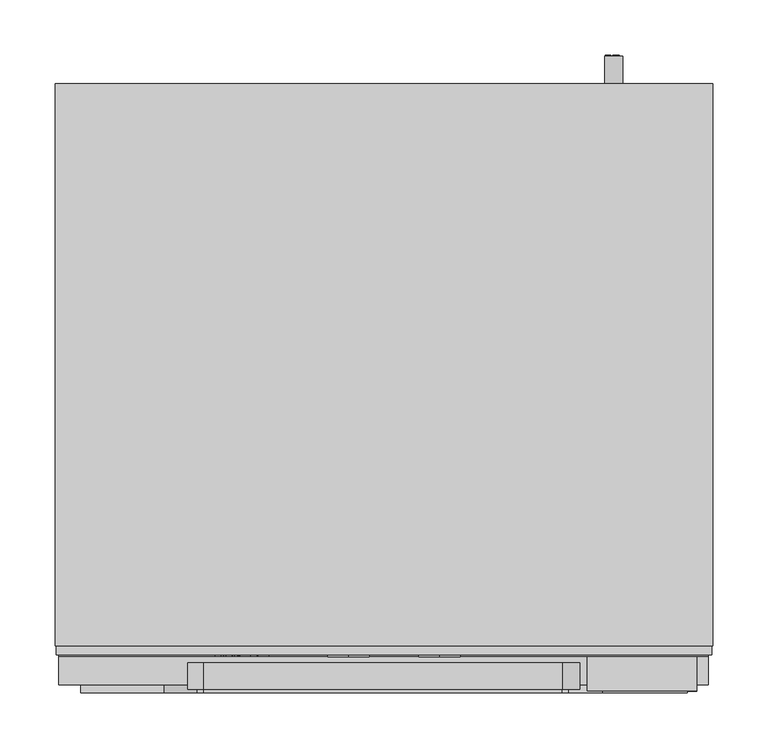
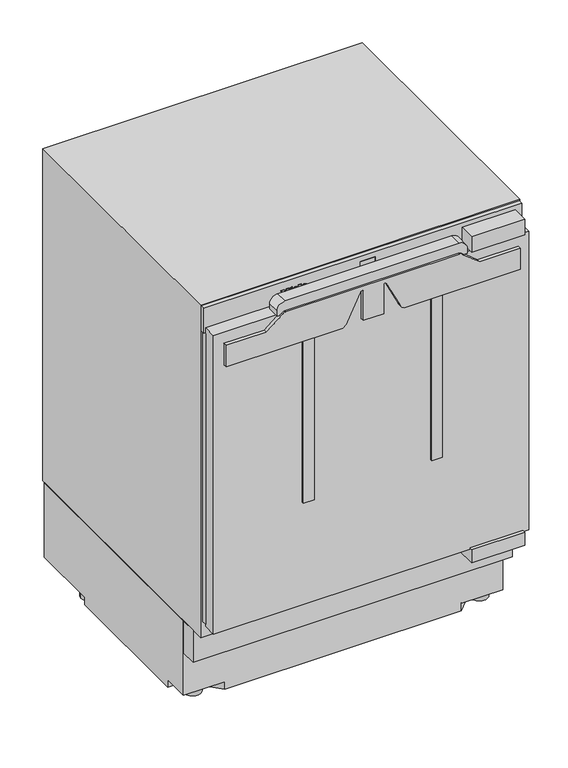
"""IFC4 building model written with IfcOpenShell, lengths in millimetres: proxy geometry, 10799700_USA_K31222Ui : 36312220_USA_10799700_K31222Ui."""

from ifc_helpers import new_model, si_unit, point, frame, frame_2d, origin, origin_with_axes, place, context, project, spatial, polyline, circle_curve, ellipse_curve, trimmed, segment, composite_curve, outline, extrude, faceted_brep, source, transform, mapped, element, save
from ifc_brep_helpers import plane_surface, cylinder_surface, revolved_surface, extruded_surface, advanced_brep


def specialty_equipment_11cac2a6(model_context):
    return source(origin(), model_context, "Body", "SolidModel", [
        advanced_brep(
        [(-110.007984, 33.1191139, 797.0960122), (-110.007984, 33.1191139, 797.9040122), (-104.655984, 33.1191139, 797.9040122), (-113.967984, 33.1191139, 797.9040122), (-111.767984, 33.1191139, 795.2000122), (-104.791984, 33.1191139, 797.0960122), (-107.207984, 33.1191139, 797.0960122), (-109.111984, 33.1191139, 796.2000122), (-110.007984, 33.1191139, 798.9280122), (-110.007984, 33.1191139, 799.8000122), (-108.639984, 33.1191139, 799.8000122), (-108.639984, 33.1191139, 798.9280122), (-110.007984, 34.1191139, 797.0960122), (-109.111984, 34.1191139, 796.2000122), (-107.207984, 34.1191139, 797.0960122), (-104.791984, 34.1191139, 797.0960122), (-111.767984, 34.1191139, 795.2000122), (-113.967984, 34.1191139, 797.9040122), (-104.655984, 34.1191139, 797.9040122), (-110.007984, 34.1191139, 797.9040122), (-110.007984, 34.1191139, 798.9280122), (-108.639984, 34.1191139, 798.9280122), (-108.639984, 34.1191139, 799.8000122), (-110.007984, 34.1191139, 799.8000122)],
        [
            (0, 1),
            (1, 2),
            (2, 3, ellipse_curve(frame((-109.311984, 33.1191139, 797.9040122), z_axis=(0.0, -1.0, 0.0), x_axis=(-1.0, 0.0, 0.0)), 4.656, 3.848)),
            (3, 4, circle_curve(frame((-110.8719404, 33.1191139, 798.1760122), z_axis=(0.0, -1.0, 0.0), x_axis=(0.0, 0.0, -1.0)), 3.1079688)),
            (4, 5, circle_curve(frame((-109.4051904, 33.1191139, 800.2880122), z_axis=(0.0, -1.0, 0.0), x_axis=(0.0, 0.0, -1.0)), 5.6098607)),
            (5, 6),
            (6, 7, circle_curve(frame((-108.7209252, 33.1191139, 797.8400122), z_axis=(0.0, 1.0, 0.0), x_axis=(0.0, 0.0, -1.0)), 1.6859795)),
            (7, 0, circle_curve(frame((-109.111984, 33.1191139, 797.0960122), z_axis=(0.0, 1.0, 0.0), x_axis=(0.0, 0.0, -1.0)), 0.896)),
            (8, 9),
            (9, 10, circle_curve(frame((-109.323984, 33.1191139, 799.8000122), z_axis=(0.0, 1.0, 0.0), x_axis=(0.0, 0.0, -1.0)), 0.684)),
            (10, 11),
            (11, 8),
            (12, 13, circle_curve(frame((-109.111984, 34.1191139, 797.0960122), z_axis=(0.0, -1.0, 0.0), x_axis=(0.0, 0.0, -1.0)), 0.896)),
            (13, 14, circle_curve(frame((-108.7209252, 34.1191139, 797.8400122), z_axis=(0.0, -1.0, 0.0), x_axis=(0.0, 0.0, -1.0)), 1.6859795)),
            (14, 15),
            (15, 16, circle_curve(frame((-109.4051904, 34.1191139, 800.2880122), z_axis=(0.0, 1.0, 0.0), x_axis=(0.0, 0.0, -1.0)), 5.6098607)),
            (16, 17, circle_curve(frame((-110.8719404, 34.1191139, 798.1760122), z_axis=(0.0, 1.0, 0.0), x_axis=(0.0, 0.0, -1.0)), 3.1079688)),
            (17, 18, ellipse_curve(frame((-109.311984, 34.1191139, 797.9040122), z_axis=(0.0, 1.0, 0.0), x_axis=(-1.0, 0.0, 0.0)), 4.656, 3.848)),
            (18, 19),
            (19, 12),
            (20, 21),
            (21, 22),
            (22, 23, circle_curve(frame((-109.323984, 34.1191139, 799.8000122), z_axis=(0.0, -1.0, 0.0), x_axis=(0.0, 0.0, -1.0)), 0.684)),
            (23, 20),
            (0, 12),
            (19, 1),
            (18, 2),
            (5, 15),
            (14, 6),
            (17, 3),
            (13, 7),
            (16, 4),
            (8, 20),
            (23, 9),
            (22, 10),
            (21, 11),
        ],
        [
            plane_surface(frame((-110.007984, 33.1191139, 797.9040122), z_axis=(0.0, -1.0, 0.0), x_axis=(0.0, 0.0, 1.0))),
            plane_surface(frame((-110.007984, 34.1191139, 797.9040122), z_axis=(0.0, 1.0, 0.0), x_axis=(0.0, 0.0, -1.0))),
            plane_surface(frame((-110.007984, 33.1191139, 797.0960122), z_axis=(1.0, 0.0, 0.0), x_axis=(0.0, 1.0, 0.0))),
            plane_surface(frame((-110.007984, 33.1191139, 797.9040122), z_axis=(0.0, 0.0, -1.0), x_axis=(0.0, 1.0, 0.0))),
            plane_surface(frame((-104.791984, 33.1191139, 797.0960122), z_axis=(0.0, 0.0, 1.0), x_axis=(0.0, 1.0, 0.0))),
            extruded_surface(trimmed(ellipse_curve(frame((-109.311984, 35.1191139, 797.9040122), z_axis=(0.0, -1.0, 0.0), x_axis=(-1.0, 0.0, 0.0)), 4.656, 3.848), [point((-104.655984, 35.1191139, 797.9040122))], [point((-113.967984, 35.1191139, 797.9040122))], True, "CARTESIAN"), (0.0, -1.0, 0.0), 1.0),
            revolved_surface(polyline([(-108.7209252, 34.1191139, 796.1540327), (-108.7209252, 33.1191139, 796.1540327)]), (-108.7209252, 34.1191139, 797.8400122), (0.0, 1.0, 0.0)),
            revolved_surface(polyline([(-109.111984, 34.1191139, 796.2000122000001), (-109.111984, 33.1191139, 796.2000122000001)]), (-109.111984, 34.1191139, 797.0960122), (0.0, 1.0, 0.0)),
            cylinder_surface(frame((-110.8719404, 34.1191139, 798.1760122), z_axis=(0.0, -1.0, 0.0), x_axis=(0.0, 0.0, -1.0)), 3.1079688),
            cylinder_surface(frame((-109.4051904, 34.1191139, 800.2880122), z_axis=(0.0, -1.0, 0.0), x_axis=(0.0, 0.0, -1.0)), 5.6098607),
            plane_surface(frame((-110.007984, 33.1191139, 798.9280122), z_axis=(1.0, 0.0, 0.0), x_axis=(0.0, 1.0, 0.0))),
            revolved_surface(polyline([(-109.323984, 34.1191139, 799.1160122), (-109.323984, 33.1191139, 799.1160122)]), (-109.323984, 34.1191139, 799.8000122), (0.0, 1.0, 0.0)),
            plane_surface(frame((-108.639984, 33.1191139, 799.8000122), z_axis=(-1.0, 0.0, 0.0), x_axis=(0.0, 1.0, 0.0))),
            plane_surface(frame((-108.639984, 33.1191139, 798.9280122), z_axis=(0.0, 0.0, 1.0), x_axis=(0.0, 1.0, 0.0))),
        ],
        [
            (0, [[1, 2, 3, 4, 5, 6, 7, 8], [9, 10, 11, 12]]),
            (1, [[13, 14, 15, 16, 17, 18, 19, 20], [21, 22, 23, 24]]),
            (2, [[-1, 25, -20, 26]]),
            (3, [[-2, -26, -19, 27]]),
            (4, [[-6, 28, -15, 29]]),
            (5, [[-3, -27, -18, 30]]),
            (6, [[-7, -29, -14, 31]]),
            (7, [[-8, -31, -13, -25]]),
            (8, [[-4, -30, -17, 32]]),
            (9, [[-5, -32, -16, -28]]),
            (10, [[-9, 33, -24, 34]]),
            (11, [[-10, -34, -23, 35]]),
            (12, [[-11, -35, -22, 36]]),
            (13, [[-12, -36, -21, -33]]),
        ],
    ),
        advanced_brep(
        [(-126.703984, 33.1191139, 797.0960122), (-126.703984, 33.1191139, 797.9040122), (-121.351984, 33.1191139, 797.9040122), (-130.663984, 33.1191139, 797.9040122), (-128.463984, 33.1191139, 795.2000122), (-121.487984, 33.1191139, 797.0960122), (-123.903984, 33.1191139, 797.0960122), (-125.807984, 33.1191139, 796.2000122), (-126.703984, 33.1191139, 798.9280122), (-126.703984, 33.1191139, 799.8000122), (-125.335984, 33.1191139, 799.8000122), (-125.335984, 33.1191139, 798.9280122), (-126.703984, 34.1191139, 797.0960122), (-125.807984, 34.1191139, 796.2000122), (-123.903984, 34.1191139, 797.0960122), (-121.487984, 34.1191139, 797.0960122), (-128.463984, 34.1191139, 795.2000122), (-130.663984, 34.1191139, 797.9040122), (-121.351984, 34.1191139, 797.9040122), (-126.703984, 34.1191139, 797.9040122), (-126.703984, 34.1191139, 798.9280122), (-125.335984, 34.1191139, 798.9280122), (-125.335984, 34.1191139, 799.8000122), (-126.703984, 34.1191139, 799.8000122)],
        [
            (0, 1),
            (1, 2),
            (2, 3, ellipse_curve(frame((-126.007984, 33.1191139, 797.9040122), z_axis=(0.0, -1.0, 0.0), x_axis=(-1.0, 0.0, 0.0)), 4.656, 3.848)),
            (3, 4, circle_curve(frame((-127.5679404, 33.1191139, 798.1760122), z_axis=(0.0, -1.0, 0.0), x_axis=(0.0, 0.0, -1.0)), 3.1079688)),
            (4, 5, circle_curve(frame((-126.1011904, 33.1191139, 800.2880122), z_axis=(0.0, -1.0, 0.0), x_axis=(0.0, 0.0, -1.0)), 5.6098607)),
            (5, 6),
            (6, 7, circle_curve(frame((-125.4169252, 33.1191139, 797.8400122), z_axis=(0.0, 1.0, 0.0), x_axis=(0.0, 0.0, -1.0)), 1.6859795)),
            (7, 0, circle_curve(frame((-125.807984, 33.1191139, 797.0960122), z_axis=(0.0, 1.0, 0.0), x_axis=(0.0, 0.0, -1.0)), 0.896)),
            (8, 9),
            (9, 10, circle_curve(frame((-126.019984, 33.1191139, 799.8000122), z_axis=(0.0, 1.0, 0.0), x_axis=(0.0, 0.0, -1.0)), 0.684)),
            (10, 11),
            (11, 8),
            (12, 13, circle_curve(frame((-125.807984, 34.1191139, 797.0960122), z_axis=(0.0, -1.0, 0.0), x_axis=(0.0, 0.0, -1.0)), 0.896)),
            (13, 14, circle_curve(frame((-125.4169252, 34.1191139, 797.8400122), z_axis=(0.0, -1.0, 0.0), x_axis=(0.0, 0.0, -1.0)), 1.6859795)),
            (14, 15),
            (15, 16, circle_curve(frame((-126.1011904, 34.1191139, 800.2880122), z_axis=(0.0, 1.0, 0.0), x_axis=(0.0, 0.0, -1.0)), 5.6098607)),
            (16, 17, circle_curve(frame((-127.5679404, 34.1191139, 798.1760122), z_axis=(0.0, 1.0, 0.0), x_axis=(0.0, 0.0, -1.0)), 3.1079688)),
            (17, 18, ellipse_curve(frame((-126.007984, 34.1191139, 797.9040122), z_axis=(0.0, 1.0, 0.0), x_axis=(-1.0, 0.0, 0.0)), 4.656, 3.848)),
            (18, 19),
            (19, 12),
            (20, 21),
            (21, 22),
            (22, 23, circle_curve(frame((-126.019984, 34.1191139, 799.8000122), z_axis=(0.0, -1.0, 0.0), x_axis=(0.0, 0.0, -1.0)), 0.684)),
            (23, 20),
            (0, 12),
            (19, 1),
            (18, 2),
            (5, 15),
            (14, 6),
            (17, 3),
            (13, 7),
            (16, 4),
            (8, 20),
            (23, 9),
            (22, 10),
            (21, 11),
        ],
        [
            plane_surface(frame((-126.703984, 33.1191139, 797.9040122), z_axis=(0.0, -1.0, 0.0), x_axis=(0.0, 0.0, 1.0))),
            plane_surface(frame((-126.703984, 34.1191139, 797.9040122), z_axis=(0.0, 1.0, 0.0), x_axis=(0.0, 0.0, -1.0))),
            plane_surface(frame((-126.703984, 33.1191139, 797.0960122), z_axis=(1.0, 0.0, 0.0), x_axis=(0.0, 1.0, 0.0))),
            plane_surface(frame((-126.703984, 33.1191139, 797.9040122), z_axis=(0.0, 0.0, -1.0), x_axis=(0.0, 1.0, 0.0))),
            plane_surface(frame((-121.487984, 33.1191139, 797.0960122), z_axis=(0.0, 0.0, 1.0), x_axis=(0.0, 1.0, 0.0))),
            extruded_surface(trimmed(ellipse_curve(frame((-126.007984, 35.1191139, 797.9040122), z_axis=(0.0, -1.0, 0.0), x_axis=(-1.0, 0.0, 0.0)), 4.656, 3.848), [point((-121.351984, 35.1191139, 797.9040122))], [point((-130.663984, 35.1191139, 797.9040122))], True, "CARTESIAN"), (0.0, -1.0, 0.0), 1.0),
            revolved_surface(polyline([(-125.4169252, 34.1191139, 796.1540327), (-125.4169252, 33.1191139, 796.1540327)]), (-125.4169252, 34.1191139, 797.8400122), (0.0, 1.0, 0.0)),
            revolved_surface(polyline([(-125.807984, 34.1191139, 796.2000122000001), (-125.807984, 33.1191139, 796.2000122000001)]), (-125.807984, 34.1191139, 797.0960122), (0.0, 1.0, 0.0)),
            cylinder_surface(frame((-127.5679404, 34.1191139, 798.1760122), z_axis=(0.0, -1.0, 0.0), x_axis=(0.0, 0.0, -1.0)), 3.1079688),
            cylinder_surface(frame((-126.1011904, 34.1191139, 800.2880122), z_axis=(0.0, -1.0, 0.0), x_axis=(0.0, 0.0, -1.0)), 5.6098607),
            plane_surface(frame((-126.703984, 33.1191139, 798.9280122), z_axis=(1.0, 0.0, 0.0), x_axis=(0.0, 1.0, 0.0))),
            revolved_surface(polyline([(-126.019984, 34.1191139, 799.1160122), (-126.019984, 33.1191139, 799.1160122)]), (-126.019984, 34.1191139, 799.8000122), (0.0, 1.0, 0.0)),
            plane_surface(frame((-125.335984, 33.1191139, 799.8000122), z_axis=(-1.0, 0.0, 0.0), x_axis=(0.0, 1.0, 0.0))),
            plane_surface(frame((-125.335984, 33.1191139, 798.9280122), z_axis=(0.0, 0.0, 1.0), x_axis=(0.0, 1.0, 0.0))),
        ],
        [
            (0, [[1, 2, 3, 4, 5, 6, 7, 8], [9, 10, 11, 12]]),
            (1, [[13, 14, 15, 16, 17, 18, 19, 20], [21, 22, 23, 24]]),
            (2, [[-1, 25, -20, 26]]),
            (3, [[-2, -26, -19, 27]]),
            (4, [[-6, 28, -15, 29]]),
            (5, [[-3, -27, -18, 30]]),
            (6, [[-7, -29, -14, 31]]),
            (7, [[-8, -31, -13, -25]]),
            (8, [[-4, -30, -17, 32]]),
            (9, [[-5, -32, -16, -28]]),
            (10, [[-9, 33, -24, 34]]),
            (11, [[-10, -34, -23, 35]]),
            (12, [[-11, -35, -22, 36]]),
            (13, [[-12, -36, -21, -33]]),
        ],
    ),
        extrude(outline(polyline([(802.7280122, -135.447984), (801.4320122, -134.839984), (802.6960122, -132.127984), (803.9920122, -132.727984), (802.7280122, -135.447984)])), frame((0.0, 33.1191139, 0.0), z_axis=(0.0, 1.0, 0.0), x_axis=(0.0, 0.0, 1.0)), (0.0, 0.0, 1.0), 1.0),
        extrude(outline(polyline([(801.2560122, -137.423984), (799.8240122, -137.423984), (799.8240122, -136.471984), (796.5440122, -136.471984), (796.5440122, -137.423984), (795.2000122, -137.423984), (795.2000122, -131.111984), (796.5440122, -131.111984), (796.5440122, -132.039984), (801.2560122, -132.039984), (801.2560122, -137.423984)])), frame((0.0, 33.1191139, 0.0), z_axis=(0.0, 1.0, 0.0), x_axis=(0.0, 0.0, 1.0)), (0.0, 0.0, 1.0), 1.0),
        extrude(outline(polyline([(801.8960122, -120.903984), (801.8960122, -119.943984), (796.5440122, -119.943984), (796.5440122, -120.903984), (795.2000122, -120.903984), (795.2000122, -114.415984), (796.5440122, -114.415984), (796.5440122, -115.399984), (803.2000122, -115.399984), (803.2000122, -120.903984), (801.8960122, -120.903984)])), frame((0.0, 33.1191139, 0.0), z_axis=(0.0, 1.0, 0.0), x_axis=(0.0, 0.0, 1.0)), (0.0, 0.0, 1.0), 1.0),
        extrude(outline(polyline([(801.8960122, -153.367984), (801.8960122, -152.399984), (796.5440122, -152.399984), (796.5440122, -153.367984), (795.2000122, -153.367984), (795.2000122, -149.847984), (796.5440122, -149.847984), (796.5440122, -150.807984), (799.947137, -150.807984), (795.2000122, -147.231984), (800.0152345, -143.639984), (796.5440122, -143.639984), (796.5440122, -144.623984), (795.2000122, -144.623984), (795.2000122, -138.239984), (796.5440122, -138.239984), (796.5440122, -139.255984), (801.8960122, -139.255984), (801.8960122, -138.239984), (803.2000122, -138.239984), (803.2000122, -143.111984), (800.2000122, -145.447984), (803.2000122, -147.791984), (803.2000122, -153.367984), (801.8960122, -153.367984)])), frame((0.0, 33.1191139, 0.0), z_axis=(0.0, 1.0, 0.0), x_axis=(0.0, 0.0, 1.0)), (0.0, 0.0, 1.0), 1.0),
        extrude(outline(polyline([(22.8031044, 34.1191139), (-4.8034096, 34.1191139), (-4.8034096, 37.1191139), (22.8031044, 37.1191139), (22.8031044, 34.1191139)])), frame((0.0, 0.0, 780.9425171), z_axis=(0.0, 0.0, 1.0), x_axis=(1.0, 0.0, 0.0)), (0.0, 0.0, 1.0), 27.6065063),
        faceted_brep([(297.5, 34.1191139, 818.3), (-297.5, 34.1191139, 818.3), (-297.5, 34.1191139, 769.0), (297.5, 34.1191139, 769.0), (22.8031044, 34.1191139, 808.5490234), (22.8031044, 34.1191139, 780.9425171), (-4.8034096, 34.1191139, 780.9425171), (-4.8034096, 34.1191139, 808.5490234), (297.5, 42.5878677, 818.3), (297.5, 42.5878677, 769.0), (-297.5, 42.5878677, 769.0), (-297.5, 42.5878677, 818.3), (22.8031044, 37.1191139, 780.9425171), (22.8031044, 37.1191139, 808.5490234), (-4.8034096, 37.1191139, 808.5490234), (-4.8034096, 37.1191139, 780.9425171)], [[[0, 1, 2, 3], [4, 5, 6, 7]], [[8, 9, 10, 11]], [[1, 0, 8, 11]], [[2, 1, 11, 10]], [[3, 2, 10, 9]], [[0, 3, 9, 8]], [[12, 13, 14, 15]], [[13, 12, 5, 4]], [[14, 13, 4, 7]], [[15, 14, 7, 6]], [[12, 15, 6, 5]]]),
        extrude(outline(polyline([(69.276268, 32.6236), (50.5390474, 32.6236), (50.5390474, 34.1191139), (69.276268, 34.1191139), (69.276268, 32.6236)])), frame((0.0, 0.0, 790.757529), z_axis=(0.0, 0.0, 1.0), x_axis=(1.0, 0.0, 0.0)), (0.0, 0.0, 1.0), 7.9893937),
        extrude(outline(polyline([(49.9912624, 32.6236), (31.4976923, 32.6236), (31.4976923, 34.1191139), (49.9912624, 34.1191139), (49.9912624, 32.6236)])), frame((0.0, 0.0, 790.757529), z_axis=(0.0, 0.0, 1.0), x_axis=(1.0, 0.0, 0.0)), (0.0, 0.0, 1.0), 7.9893937),
        extrude(outline(polyline([(-13.2239265, 32.6236), (-31.9611472, 32.6236), (-31.9611472, 34.1191139), (-13.2239265, 34.1191139), (-13.2239265, 32.6236)])), frame((0.0, 0.0, 790.757529), z_axis=(0.0, 0.0, 1.0), x_axis=(1.0, 0.0, 0.0)), (0.0, 0.0, 1.0), 7.9893937),
        extrude(outline(polyline([(-32.5089321, 32.6236), (-51.0025022, 32.6236), (-51.0025022, 34.1191139), (-32.5089321, 34.1191139), (-32.5089321, 32.6236)])), frame((0.0, 0.0, 790.757529), z_axis=(0.0, 0.0, 1.0), x_axis=(1.0, 0.0, 0.0)), (0.0, 0.0, 1.0), 7.9893937),
        extrude(outline(composite_curve([segment(trimmed(circle_curve(frame_2d((268.0, 122.0)), 16.0), [point((252.0, 122.0))], [point((284.0, 122.0))], False, "CARTESIAN"), True, "CONTINUOUS"), segment(trimmed(circle_curve(frame_2d((268.0, 122.0)), 16.0), [point((284.0, 122.0))], [point((252.0, 122.0))], False, "CARTESIAN"), True, "CONTINUOUS")], self_intersect=False)), origin_with_axes(), (0.0, 0.0, 1.0), 15.0),
        extrude(outline(composite_curve([segment(trimmed(circle_curve(frame_2d((278.5, 459.0)), 16.0), [point((262.5, 459.0))], [point((294.5, 459.0))], False, "CARTESIAN"), True, "CONTINUOUS"), segment(trimmed(circle_curve(frame_2d((278.5, 459.0)), 16.0), [point((294.5, 459.0))], [point((262.5, 459.0))], False, "CARTESIAN"), True, "CONTINUOUS")], self_intersect=False)), origin_with_axes(), (0.0, 0.0, 1.0), 15.0),
        extrude(outline(composite_curve([segment(trimmed(circle_curve(frame_2d((-278.5, 437.0)), 16.0), [point((-294.5, 437.0))], [point((-262.5, 437.0))], False, "CARTESIAN"), True, "CONTINUOUS"), segment(trimmed(circle_curve(frame_2d((-278.5, 437.0)), 16.0), [point((-262.5, 437.0))], [point((-294.5, 437.0))], False, "CARTESIAN"), True, "CONTINUOUS")], self_intersect=False)), origin_with_axes(), (0.0, 0.0, 1.0), 15.0),
        extrude(outline(composite_curve([segment(trimmed(circle_curve(frame_2d((-268.0, 122.0)), 16.0), [point((-284.0, 122.0))], [point((-252.0, 122.0))], False, "CARTESIAN"), True, "CONTINUOUS"), segment(trimmed(circle_curve(frame_2d((-268.0, 122.0)), 16.0), [point((-252.0, 122.0))], [point((-284.0, 122.0))], False, "CARTESIAN"), True, "CONTINUOUS")], self_intersect=False)), origin_with_axes(), (0.0, 0.0, 1.0), 15.0),
        extrude(outline(polyline([(298.5, 98.0), (298.5, 67.0), (-298.5, 67.0), (-298.5, 98.0), (298.5, 98.0)])), frame((0.0, 0.0, 99.0), z_axis=(0.0, 0.0, 1.0), x_axis=(1.0, 0.0, 0.0)), (0.0, 0.0, 1.0), 64.0),
        faceted_brep([(298.5, 548.0, 163.0), (298.5, 98.0, 163.0), (298.5, 98.0, 15.0), (298.5, 149.4293485, 15.0), (298.5, 149.4293485, 0.0), (298.5, 418.0, 0.0), (298.5, 418.0, 15.0), (298.5, 548.0, 15.0), (-298.5, 98.0, 163.0), (-298.5, 548.0, 163.0), (-298.5, 548.0, 15.0), (-298.5, 418.0, 15.0), (-298.5, 418.0, 0.0), (-298.5, 149.4293485, 0.0), (-298.5, 149.4293485, 15.0), (-298.5, 98.0, 15.0), (254.5, 548.0, 15.0), (254.5, 548.0, 0.0), (-254.5, 548.0, 0.0), (-254.5, 548.0, 15.0), (-221.3835978, 98.0, 15.0), (-221.3835978, 98.0, 0.0), (221.3835978, 98.0, 0.0), (221.3835978, 98.0, 15.0), (-271.0483424, 149.4293485, 0.0), (-254.5, 418.0, 0.0), (254.5, 418.0, 0.0), (271.0483424, 149.4293485, 0.0), (271.0483424, 149.4293485, 15.0), (-271.0483424, 149.4293485, 15.0), (254.5, 418.0, 15.0), (-254.5, 418.0, 15.0)], [[[0, 1, 2, 3, 4, 5, 6, 7]], [[8, 9, 10, 11, 12, 13, 14, 15]], [[9, 0, 7, 16, 17, 18, 19, 10]], [[1, 0, 9, 8]], [[1, 8, 15, 20, 21, 22, 23, 2]], [[22, 21, 24, 13, 12, 25, 18, 17, 26, 5, 4, 27]], [[28, 3, 2, 23]], [[29, 20, 15, 14]], [[28, 23, 22, 27]], [[3, 28, 27, 4]], [[29, 14, 13, 24]], [[20, 29, 24, 21]], [[6, 30, 16, 7]], [[31, 11, 10, 19]], [[30, 6, 5, 26]], [[30, 26, 17, 16]], [[25, 31, 19, 18]], [[11, 31, 25, 12]]]),
        faceted_brep([(298.5, 553.0, 820.0), (-298.5, 553.0, 820.0), (-298.5, 42.5878677, 820.0), (298.5, 42.5878677, 820.0), (298.5, 553.0, 163.0), (298.5, 42.5878677, 163.0), (-298.5, 42.5878677, 163.0), (-298.5, 553.0, 163.0), (-254.5, 42.5878677, 775.0), (254.5, 42.5878677, 775.0), (254.5, 42.5878677, 209.0), (-254.5, 42.5878677, 209.0), (254.5, 497.5878677, 775.0), (-254.5, 497.5878677, 775.0), (-254.5, 497.5878677, 209.0), (254.5, 497.5878677, 209.0)], [[[0, 1, 2, 3]], [[4, 5, 6, 7]], [[1, 0, 4, 7]], [[2, 1, 7, 6]], [[3, 2, 6, 5], [8, 9, 10, 11]], [[0, 3, 5, 4]], [[12, 13, 14, 15]], [[13, 12, 9, 8]], [[14, 13, 8, 11]], [[15, 14, 11, 10]], [[12, 15, 10, 9]]]),
        extrude(outline(composite_curve([segment(trimmed(circle_curve(frame_2d((45.0, 208.5)), 8.0), [point((45.0, 200.5))], [point((45.0, 216.5))], False, "CARTESIAN"), True, "CONTINUOUS"), segment(trimmed(circle_curve(frame_2d((45.0, 208.5)), 8.0), [point((45.0, 216.5))], [point((45.0, 200.5))], False, "CARTESIAN"), True, "CONTINUOUS")], self_intersect=False)), frame((0.0, 548.0, 0.0), z_axis=(0.0, 1.0, 0.0), x_axis=(0.0, 0.0, 1.0)), (0.0, 0.0, 1.0), 30.0),
        extrude(outline(polyline([(41.0, 213.4018082), (49.0365048, 213.4018082), (49.0365048, 207.6255704), (48.0319417, 207.6255704), (48.0319417, 212.3972451), (45.6461043, 212.3972451), (45.6461043, 207.8767112), (44.6415412, 207.8767112), (44.6415412, 212.3972451), (42.0045631, 212.3972451), (42.0045631, 207.5), (41.0, 207.5), (41.0, 213.4018082)])), frame((0.0, 578.0, 0.0), z_axis=(0.0, 1.0, 0.0), x_axis=(0.0, 0.0, 1.0)), (0.0, 0.0, 1.0), 1.0),
        extrude(outline(polyline([(41.0, 205.9931553), (49.0365048, 205.9931553), (49.0365048, 204.9885922), (42.0045631, 204.9885922), (42.0045631, 200.9703398), (41.0, 200.9703398), (41.0, 205.9931553)])), frame((0.0, 578.0, 0.0), z_axis=(0.0, 1.0, 0.0), x_axis=(0.0, 0.0, 1.0)), (0.0, 0.0, 1.0), 1.0),
        extrude(outline(polyline([(294.5, 42.5878677), (294.5, 32.5878677), (-295.0, 32.5878677), (-295.0, 42.5878677), (294.5, 42.5878677)])), frame((0.0, 0.0, 193.8000031), z_axis=(0.0, 0.0, 1.0), x_axis=(1.0, 0.0, 0.0)), (0.0, 0.0, 1.0), 574.1999969),
        extrude(outline(polyline([(-110.0, 1.6000023), (-130.0, 1.6000023), (-130.0, 4.6000023), (-110.0, 4.6000023), (-110.0, 1.6000023)])), frame((0.0, 0.0, 394.2999878), z_axis=(0.0, 0.0, 1.0), x_axis=(1.0, 0.0, 0.0)), (0.0, 0.0, 1.0), 333.9363981),
        extrude(outline(polyline([(130.0, 1.6000023), (110.0, 1.6000023), (110.0, 4.6000023), (130.0, 4.6000023), (130.0, 1.6000023)])), frame((0.0, 0.0, 394.2999878), z_axis=(0.0, 0.0, 1.0), x_axis=(1.0, 0.0, 0.0)), (0.0, 0.0, 1.0), 333.9363981),
        extrude(outline(composite_curve([segment(polyline([(758.0260477, -200.1015468), (758.0260477, -275.1414987), (715.7624527, -275.1414987), (715.7624527, -60.1316308)]), True, "CONTINUOUS"), segment(trimmed(circle_curve(frame_2d((728.8751856, -61.9450601)), 13.2375333), [point((715.7624527, -60.1316308))], [point((725.7155656, -49.0901354))], False, "CARTESIAN"), True, "CONTINUOUS"), segment(polyline([(725.7155656, -49.0901354), (775.6649649, -24.5322619)]), True, "CONTINUOUS"), segment(trimmed(circle_curve(frame_2d((775.1995283, -21.7842066)), 2.7871919), [point((775.6649649, -24.5322619))], [point((775.1995283, -18.9970147))], True, "CARTESIAN"), True, "CONTINUOUS"), segment(polyline([(775.1995283, -18.9970147), (718.0523766, -18.9970147), (718.0523766, 18.9970147), (775.1995283, 18.9970147)]), True, "CONTINUOUS"), segment(trimmed(circle_curve(frame_2d((775.1995283, 21.7842066)), 2.7871919), [point((775.1995283, 18.9970147))], [point((775.6649649, 24.5322619))], True, "CARTESIAN"), True, "CONTINUOUS"), segment(polyline([(775.6649649, 24.5322619), (725.7155656, 49.0901354)]), True, "CONTINUOUS"), segment(trimmed(circle_curve(frame_2d((728.8751856, 61.9450601)), 13.2375333), [point((725.7155656, 49.0901354))], [point((715.7624527, 60.1316308))], False, "CARTESIAN"), True, "CONTINUOUS"), segment(polyline([(715.7624527, 60.1316308), (715.7624527, 275.0), (757.703186, 275.0), (757.703186, 198.5), (782.9164427, 167.3835632)]), True, "CONTINUOUS"), segment(trimmed(circle_curve(frame_2d((778.2868859, 161.5889702)), 7.4168796), [point((782.9164427, 167.3835632))], [point((785.7037655, 161.5889702))], False, "CARTESIAN"), True, "CONTINUOUS"), segment(polyline([(785.7037655, 161.5889702), (785.7037655, -163.5889702)]), True, "CONTINUOUS"), segment(trimmed(circle_curve(frame_2d((778.2868859, -163.5889702)), 7.4168796), [point((785.7037655, -163.5889702))], [point((782.9164427, -169.3835632))], False, "CARTESIAN"), True, "CONTINUOUS"), segment(polyline([(782.9164427, -169.3835632), (758.0260477, -200.1015468)]), True, "CONTINUOUS")], self_intersect=False)), frame((0.0, 0.0, 0.0), z_axis=(0.0, 1.0, 0.0), x_axis=(0.0, 0.0, 1.0)), (0.0, 0.0, 1.0), 7.1),
        extrude(outline(composite_curve([segment(polyline([(780.0, 177.5901899), (789.5746835, 177.5901899)]), True, "CONTINUOUS"), segment(trimmed(circle_curve(frame_2d((789.5746835, 162.0636076)), 15.5265823), [point((789.5746835, 177.5901899))], [point((805.1012658, 162.0636076))], False, "CARTESIAN"), True, "CONTINUOUS"), segment(polyline([(805.1012658, 162.0636076), (805.1012658, -163.3636076)]), True, "CONTINUOUS"), segment(trimmed(circle_curve(frame_2d((790.3746835, -163.3636076)), 14.7265823), [point((805.1012658, -163.3636076))], [point((790.3746835, -178.0901899))], False, "CARTESIAN"), True, "CONTINUOUS"), segment(polyline([(790.3746835, -178.0901899), (780.0, -178.0901899), (780.0, 177.5901899)]), True, "CONTINUOUS")], self_intersect=False)), frame((0.0, 3.0175683, 0.0), z_axis=(0.0, 1.0, 0.0), x_axis=(0.0, 0.0, 1.0)), (0.0, 0.0, 1.0), 23.9410558),
        extrude(outline(polyline([(283.691444, 1.5125796), (184.6347268, 1.5125796), (184.6347268, 42.5878677), (283.691444, 42.5878677), (283.691444, 1.5125796)])), frame((0.0, 0.0, 166.5544307), z_axis=(0.0, 0.0, 1.0), x_axis=(1.0, 0.0, 0.0)), (0.0, 0.0, 1.0), 25.9455693),
        extrude(outline(polyline([(283.691444, 1.5125796), (184.6347268, 1.5125796), (184.6347268, 32.5878677), (283.691444, 32.5878677), (283.691444, 1.5125796)])), frame((0.0, 0.0, 780.0), z_axis=(0.0, 0.0, 1.0), x_axis=(1.0, 0.0, 0.0)), (0.0, 0.0, 1.0), 31.0),
        extrude(outline(polyline([(294.5, 7.1), (-295.0, 7.1), (-295.0, 32.5878677), (294.5, 32.5878677), (294.5, 7.1)])), frame((0.0, 0.0, 190.0), z_axis=(0.0, 0.0, 1.0), x_axis=(1.0, 0.0, 0.0)), (0.0, 0.0, 1.0), 590.0),
    ])


if __name__ == "__main__":
    model = new_model("IFC4")
    model_context = context("Model", 3, world=origin())
    ifc_project = project(units=[si_unit("LENGTHUNIT", "METRE", prefix="MILLI")], contexts=[model_context])
    site = spatial("IfcSite", under=ifc_project)
    building = spatial("IfcBuilding", under=site)
    placement = place(None, origin())
    specialty_equipment_shape = specialty_equipment_11cac2a6(model_context)
    element("IfcBuildingElementProxy", 1, Name="10799700_USA_K31222Ui : 36312220_USA_10799700_K31222Ui", ObjectType="10799700_USA_K31222Ui : 36312220_USA_10799700_K31222Ui", at=placement, inside=building, context=model_context, shape_type="MappedRepresentation", body=[
        mapped(specialty_equipment_shape, transform((0.0, 0.0, 0.0), x_axis=(1.0, 0.0, 0.0), y_axis=(0.0, 1.0, 0.0), z_axis=(0.0, 0.0, 1.0))),
    ])
    save(model, "model.ifc")
